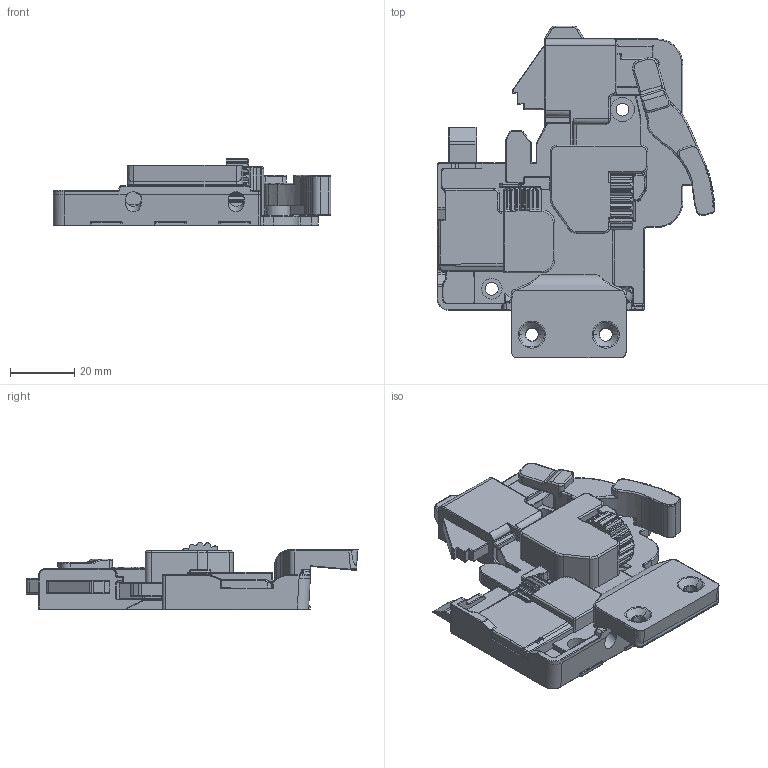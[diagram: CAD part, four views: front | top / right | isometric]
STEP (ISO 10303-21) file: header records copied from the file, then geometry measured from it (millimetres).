
FILE_DESCRIPTION (( 'STEP AP203' ), '1' );
FILE_NAME ('0TSD03-A.STEP', '2021-06-25T08:17:40', ( 'df' ), ( 'Microsoft' ), 'SwSTEP 2.0', 'SolidWorks 2018', '' );
FILE_SCHEMA (( 'CONFIG_CONTROL_DESIGN' ));
Products named in the file (1): 0TSD03-A
Bounding box: 86.45 x 103.35 x 21.03 mm (x, y, z)
Volume: 57002.2 mm3; surface area: 23169.2 mm2
Topology: 13 solids, 22 shells, 2095 faces, 5259 edges, 3145 vertices
Faces by surface type: cylinder 881, plane 567, torus 362, bspline 212, sphere 51, cone 22
Entity records: 69015 total; most frequent: CARTESIAN_POINT 20671, ORIENTED_EDGE 10406, DIRECTION 10095, EDGE_CURVE 5203, AXIS2_PLACEMENT_3D 3918, VERTEX_POINT 3143, VECTOR 2259, LINE 2259
